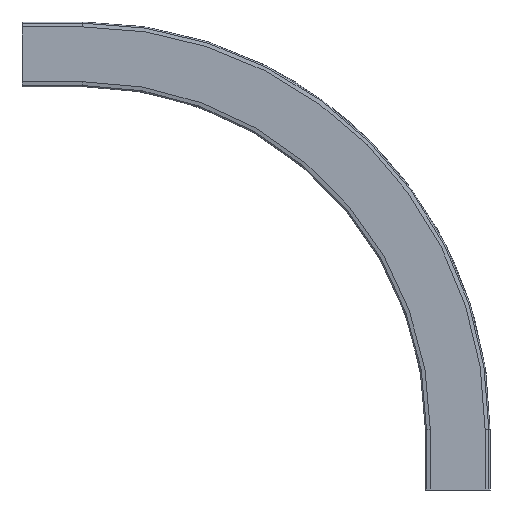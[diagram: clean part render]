
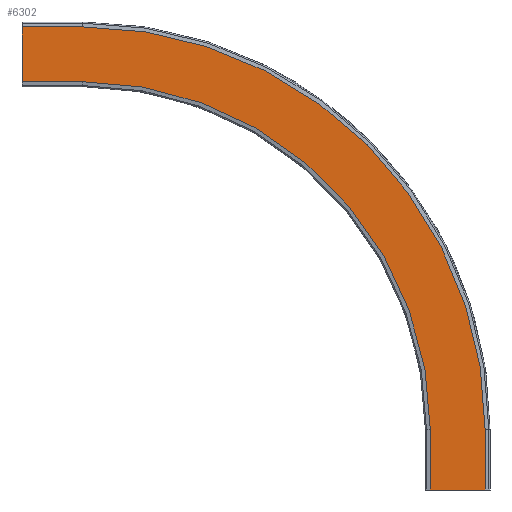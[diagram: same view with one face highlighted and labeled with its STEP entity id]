
A CAD part, front view. The second image highlights one B-rep face of the part: STEP entity #6302.
In plain terms, the highlighted planar face has unit normal (0, -1, 0).
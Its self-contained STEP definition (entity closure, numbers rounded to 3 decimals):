
#5933=CARTESIAN_POINT('',(36.5,-11.,0.0));
#5934=VERTEX_POINT('',#5933);
#5941=CARTESIAN_POINT('',(-36.5,-11.,0.0));
#5942=VERTEX_POINT('',#5941);
#5943=CARTESIAN_POINT('',(-36.5,-11.,0.0));
#5944=DIRECTION('',(1.0,0.0,0.0));
#5945=VECTOR('',#5944,73.);
#5946=LINE('',#5943,#5945);
#5947=EDGE_CURVE('',#5942,#5934,#5946,.T.);
#6013=CARTESIAN_POINT('',(-36.5,-11.,80.0));
#6014=VERTEX_POINT('',#6013);
#6028=CARTESIAN_POINT('',(-36.5,-11.,0.0));
#6029=DIRECTION('',(0.0,0.0,1.0));
#6030=VECTOR('',#6029,80.0);
#6031=LINE('',#6028,#6030);
#6032=EDGE_CURVE('',#5942,#6014,#6031,.T.);
#6042=CARTESIAN_POINT('',(36.5,-11.,80.0));
#6043=VERTEX_POINT('',#6042);
#6052=CARTESIAN_POINT('',(36.5,-11.,0.0));
#6053=DIRECTION('',(0.0,0.0,1.0));
#6054=VECTOR('',#6053,80.0);
#6055=LINE('',#6052,#6054);
#6056=EDGE_CURVE('',#5934,#6043,#6055,.T.);
#6129=CARTESIAN_POINT('',(-500.,-11.,616.5));
#6130=VERTEX_POINT('',#6129);
#6139=CARTESIAN_POINT('',(-500.0,-11.,80.0));
#6140=DIRECTION('',(0.0,-1.0,0.0));
#6141=DIRECTION('',(1.0,0.0,0.0));
#6142=AXIS2_PLACEMENT_3D('',#6139,#6140,#6141);
#6143=CIRCLE('',#6142,536.5);
#6144=EDGE_CURVE('',#6043,#6130,#6143,.T.);
#6196=CARTESIAN_POINT('',(-500.,-11.,543.5));
#6197=VERTEX_POINT('',#6196);
#6212=CARTESIAN_POINT('',(-500.0,-11.,80.0));
#6213=DIRECTION('',(0.0,-1.0,0.0));
#6214=DIRECTION('',(1.0,0.0,0.0));
#6215=AXIS2_PLACEMENT_3D('',#6212,#6213,#6214);
#6216=CIRCLE('',#6215,463.5);
#6217=EDGE_CURVE('',#6014,#6197,#6216,.T.);
#6256=CARTESIAN_POINT('',(-580.0,-11.,543.5));
#6257=VERTEX_POINT('',#6256);
#6266=CARTESIAN_POINT('',(-500.,-11.,543.5));
#6267=DIRECTION('',(-1.0,0.0,0.0));
#6268=VECTOR('',#6267,80.);
#6269=LINE('',#6266,#6268);
#6270=EDGE_CURVE('',#6197,#6257,#6269,.T.);
#6275=CARTESIAN_POINT('',(365.398,-11.,616.5));
#6276=DIRECTION('',(0.0,-1.0,0.0));
#6277=DIRECTION('',(1.0,0.0,0.0));
#6278=AXIS2_PLACEMENT_3D('',#6275,#6276,#6277);
#6279=PLANE('',#6278);
#6280=CARTESIAN_POINT('',(-580.,-11.,616.5));
#6281=VERTEX_POINT('',#6280);
#6282=CARTESIAN_POINT('',(-580.0,-11.,616.5));
#6283=DIRECTION('',(0.0,0.0,-1.0));
#6284=VECTOR('',#6283,73.);
#6285=LINE('',#6282,#6284);
#6286=EDGE_CURVE('',#6281,#6257,#6285,.T.);
#6287=ORIENTED_EDGE('',*,*,#6286,.T.);
#6288=ORIENTED_EDGE('',*,*,#6270,.F.);
#6289=ORIENTED_EDGE('',*,*,#6217,.F.);
#6290=ORIENTED_EDGE('',*,*,#6032,.F.);
#6291=ORIENTED_EDGE('',*,*,#5947,.T.);
#6292=ORIENTED_EDGE('',*,*,#6056,.T.);
#6293=ORIENTED_EDGE('',*,*,#6144,.T.);
#6294=CARTESIAN_POINT('',(-500.,-11.,616.5));
#6295=DIRECTION('',(-1.0,0.0,0.0));
#6296=VECTOR('',#6295,80.);
#6297=LINE('',#6294,#6296);
#6298=EDGE_CURVE('',#6130,#6281,#6297,.T.);
#6299=ORIENTED_EDGE('',*,*,#6298,.T.);
#6300=EDGE_LOOP('',(#6287,#6288,#6289,#6290,#6291,#6292,#6293,#6299));
#6301=FACE_OUTER_BOUND('',#6300,.T.);
#6302=ADVANCED_FACE('',(#6301),#6279,.T.);
